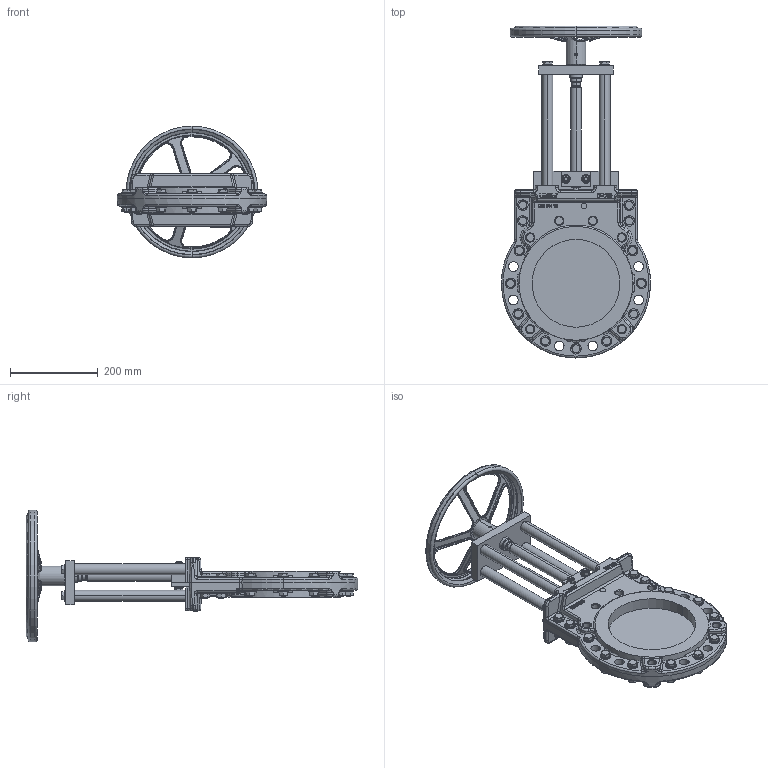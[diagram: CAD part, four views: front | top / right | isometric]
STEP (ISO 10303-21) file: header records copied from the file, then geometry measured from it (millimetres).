
FILE_DESCRIPTION (( 'STEP AP214' ), '1' );
FILE_NAME ('MGA DN 0200 PN16 (DH 300).STEP', '2015-09-23T08:04:29', ( 'admin' ), ( 'Hewlett-Packard Company' ), 'SwSTEP 2.0', 'SolidWorks 2013', '' );
FILE_SCHEMA (( 'AUTOMOTIVE_DESIGN' ));
Length unit declared in the file: millimetre
Products named in the file (1): MGA DN 0200 PN16 (DH 300)
Bounding box: 340 x 755.5 x 300 mm (x, y, z)
Volume: 5669082.5 mm3; surface area: 830948.4 mm2
Topology: 72 solids, 81 shells, 2425 faces, 5567 edges, 3367 vertices
Faces by surface type: plane 866, cylinder 636, cone 495, bspline 252, torus 154, sphere 22
Entity records: 112632 total; most frequent: CARTESIAN_POINT 32088, ORIENTED_EDGE 11086, DIRECTION 10880, EDGE_CURVE 5543, AXIS2_PLACEMENT_3D 4383, VERTEX_POINT 3367, EDGE_LOOP 2686, UNCERTAINTY_MEASURE_WITH_UNIT 2497
